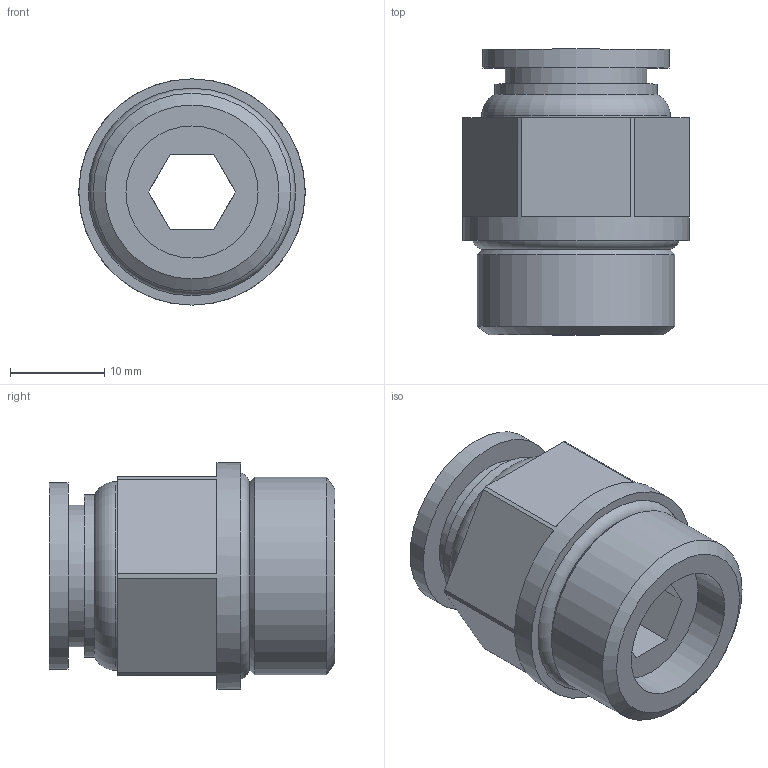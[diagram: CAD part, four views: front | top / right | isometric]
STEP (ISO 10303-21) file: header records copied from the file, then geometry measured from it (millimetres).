
FILE_DESCRIPTION(/* description */ (''),/* implementation_level */ '2;1');
FILE_NAME(/* name */ 'C:\Users\Paola\Desktop\Documenti Konfit\Disegni 3D\RP511212.stp',/* time_stamp */ '2016-04-27T16:55:00+02:00',/* author */ ('Paola'),/* organization */ (''),/* preprocessor_version */ 'ST-DEVELOPER v16.1',/* originating_system */ 'Autodesk Inventor 2016',/* authorisation */ '');
FILE_SCHEMA (('AUTOMOTIVE_DESIGN { 1 0 10303 214 3 1 1 }'));
Length unit declared in the file: millimetre
Products named in the file (1): RP511212
Bounding box: 24 x 30.3 x 24 mm (x, y, z)
Volume: 7004.4 mm3; surface area: 4613.2 mm2
Topology: 1 solids, 1 shells, 43 faces, 97 edges, 63 vertices
Faces by surface type: plane 27, cylinder 11, cone 3, torus 2
Full cylindrical faces by diameter (mm): 12.3 x1, 14 x1, 15 x1, 17.2 x1, 18.5 x2, 19.8 x1, 20 x1, 20.955 x1, 22 x1, 24 x1
Entity records: 1125 total; most frequent: DIRECTION 194, CARTESIAN_POINT 192, ORIENTED_EDGE 154, AXIS2_PLACEMENT_3D 79, EDGE_CURVE 77, EDGE_LOOP 68, VERTEX_POINT 59, FACE_OUTER_BOUND 43
